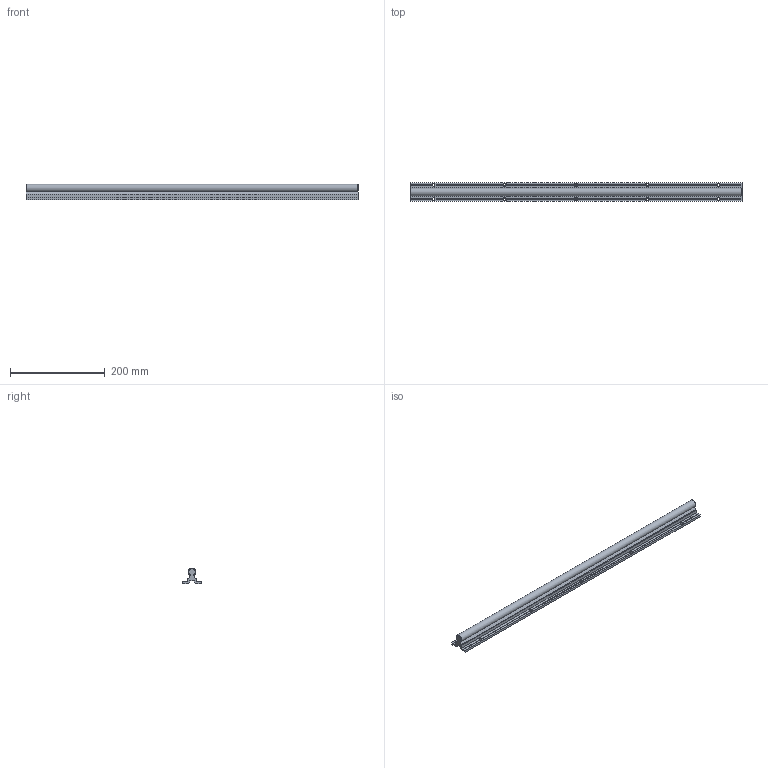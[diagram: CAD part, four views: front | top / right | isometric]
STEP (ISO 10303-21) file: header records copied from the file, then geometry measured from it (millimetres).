
FILE_DESCRIPTION(/* description */ (''),/* implementation_level */ '2;1');
FILE_NAME(/* name */ 'C:\Users\David\Desktop\stepFiles\Profilfuehrung\LFS16x700.stp',/* time_stamp */ '2018-06-24T15:18:14+02:00',/* author */ ('Buskamp'),/* organization */ (''),/* preprocessor_version */ 'ST-DEVELOPER v17',/* originating_system */ 'Autodesk Inventor 2019',/* authorisation */ '');
FILE_SCHEMA (('AUTOMOTIVE_DESIGN { 1 0 10303 214 3 1 1 }'));
Length unit declared in the file: millimetre
Products named in the file (1): Linearführung D16xvariabel
Bounding box: 700 x 40 x 32.97 mm (x, y, z)
Volume: 357377.5 mm3; surface area: 110415.8 mm2
Topology: 1 solids, 1 shells, 84 faces, 254 edges, 162 vertices
Faces by surface type: plane 55, cone 18, cylinder 11
Full cylindrical faces by diameter (mm): 5.5 x10
Entity records: 2895 total; most frequent: CARTESIAN_POINT 573, ORIENTED_EDGE 508, DIRECTION 478, EDGE_CURVE 254, AXIS2_PLACEMENT_3D 175, VERTEX_POINT 162, LINE 128, VECTOR 128
